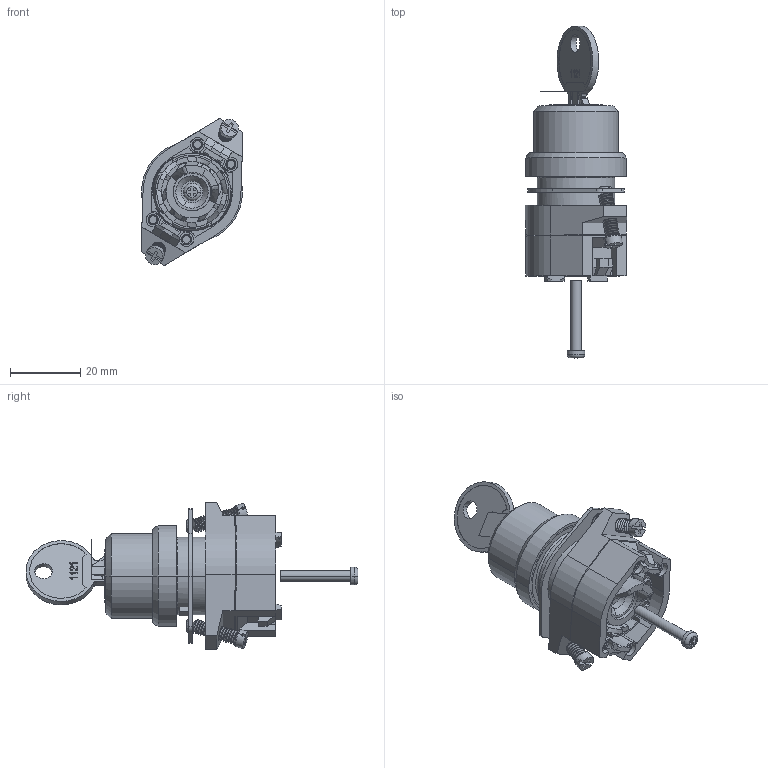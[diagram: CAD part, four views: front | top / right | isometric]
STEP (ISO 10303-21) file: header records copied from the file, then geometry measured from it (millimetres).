
FILE_DESCRIPTION((''),'2;1');
FILE_NAME('PUSHBUTTOM_KEY_04_06_ASM','2014-04-10T',('Administrator'),(''),'PRO/ENGINEER BY PARAMETRIC TECHNOLOGY CORPORATION, 2008380','PRO/ENGINEER BY PARAMETRIC TECHNOLOGY CORPORATION, 2008380','');
FILE_SCHEMA(('CONFIG_CONTROL_DESIGN'));
Length unit declared in the file: millimetre
Products named in the file (25): FUNGUS_LUO_HEAD_03_21; 125; 126; TANF1; DT_ASM; GOTOSITDOWN_KEY_ASM; FLOWER_HAT_KEY_04_06; HEAR_3MYKEY_2; KEY_TUN_03_29; KEY_HEART_03_29; SUO; YUESHI; PIAN; PIAN_8_27_32; 2008_08_01; KEY_ALL_03_27_ASM; KEY_LONGBOLT_03_27; TEIQUAN2; HUISE_; LUOSI1; TONGGUAN; PRT0001; JI_ZUO_7_03_ASM; ANZHUANGBAN; PUSHBUTTOM_KEY_04_06_ASM
Assembly tree (30 placements, depth 4):
  PUSHBUTTOM_KEY_04_06_ASM
    FUNGUS_LUO_HEAD_03_21
    GOTOSITDOWN_KEY_ASM
      125
      DT_ASM  x2
        126
        TANF1
    FLOWER_HAT_KEY_04_06
    HEAR_3MYKEY_2
    KEY_TUN_03_29
    KEY_HEART_03_29
    KEY_ALL_03_27_ASM
      SUO
      YUESHI
      PIAN  x3
      PIAN_8_27_32
      2008_08_01
    KEY_LONGBOLT_03_27
    JI_ZUO_7_03_ASM
      TEIQUAN2
      HUISE_
      LUOSI1
      TONGGUAN  x4
      PRT0001
    ANZHUANGBAN
Bounding box: 28.97 x 94.3 x 41.82 mm (x, y, z)
Volume: 20046.3 mm3; surface area: 30822.3 mm2
Topology: 27 solids, 36 shells, 1497 faces, 4034 edges, 2627 vertices
Faces by surface type: plane 825, cylinder 423, bspline 83, torus 65, cone 44, extrusion 34, sphere 23
Entity records: 58076 total; most frequent: CARTESIAN_POINT 23900, ORIENTED_EDGE 7220, DIRECTION 6791, EDGE_CURVE 3636, VERTEX_POINT 2379, AXIS2_PLACEMENT_3D 2287, VECTOR 2217, LINE 2183
